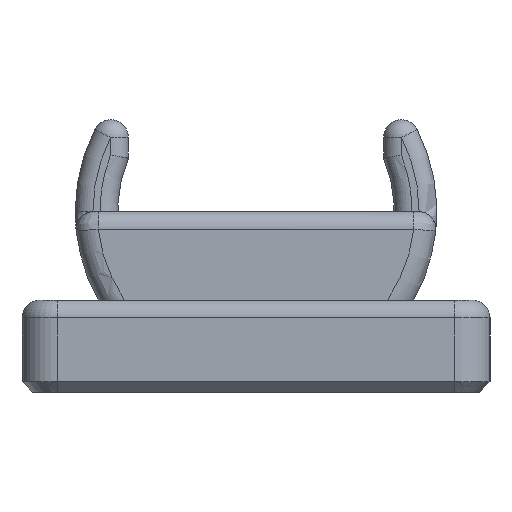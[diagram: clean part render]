
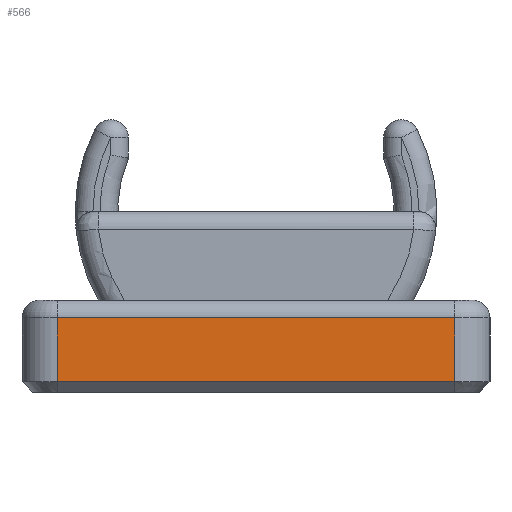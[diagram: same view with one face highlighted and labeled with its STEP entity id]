
A CAD part, left-side view. The second image highlights one B-rep face of the part: STEP entity #566.
In plain terms, the highlighted planar face has unit normal (-1, 0, 0).
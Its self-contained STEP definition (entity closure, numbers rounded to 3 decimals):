
#44 = CYLINDRICAL_SURFACE('',#45,2.);
#45 = AXIS2_PLACEMENT_3D('',#46,#47,#48);
#46 = CARTESIAN_POINT('',(-7.67,-11.2,0.));
#47 = DIRECTION('',(0.,0.,-1.));
#48 = DIRECTION('',(-1.,0.,0.));
#143 = VERTEX_POINT('',#144);
#144 = CARTESIAN_POINT('',(-9.67,-11.2,4.2));
#171 = EDGE_CURVE('',#172,#143,#174,.T.);
#172 = VERTEX_POINT('',#173);
#173 = CARTESIAN_POINT('',(-9.67,-11.2,0.6));
#174 = SURFACE_CURVE('',#175,(#179,#186),.PCURVE_S1.);
#175 = LINE('',#176,#177);
#176 = CARTESIAN_POINT('',(-9.67,-11.2,0.));
#177 = VECTOR('',#178,1.);
#178 = DIRECTION('',(0.,0.,1.));
#179 = PCURVE('',#44,#180);
#180 = DEFINITIONAL_REPRESENTATION('',(#181),#185);
#181 = LINE('',#182,#183);
#182 = CARTESIAN_POINT('',(6.283,0.));
#183 = VECTOR('',#184,1.);
#184 = DIRECTION('',(0.,-1.));
#185 = ( GEOMETRIC_REPRESENTATION_CONTEXT(2) 
PARAMETRIC_REPRESENTATION_CONTEXT() REPRESENTATION_CONTEXT('2D SPACE',''
  ) );
#186 = PCURVE('',#187,#192);
#187 = PLANE('',#188);
#188 = AXIS2_PLACEMENT_3D('',#189,#190,#191);
#189 = CARTESIAN_POINT('',(-9.67,11.2,0.));
#190 = DIRECTION('',(1.,0.,-0.));
#191 = DIRECTION('',(0.,-1.,0.));
#192 = DEFINITIONAL_REPRESENTATION('',(#193),#197);
#193 = LINE('',#194,#195);
#194 = CARTESIAN_POINT('',(22.4,0.));
#195 = VECTOR('',#196,1.);
#196 = DIRECTION('',(0.,-1.));
#197 = ( GEOMETRIC_REPRESENTATION_CONTEXT(2) 
PARAMETRIC_REPRESENTATION_CONTEXT() REPRESENTATION_CONTEXT('2D SPACE',''
  ) );
#478 = PLANE('',#479);
#479 = AXIS2_PLACEMENT_3D('',#480,#481,#482);
#480 = CARTESIAN_POINT('',(-9.37,11.2,0.3));
#481 = DIRECTION('',(-0.707,0.,-0.707));
#482 = DIRECTION('',(-0.,1.,0.));
#532 = CYLINDRICAL_SURFACE('',#533,1.);
#533 = AXIS2_PLACEMENT_3D('',#534,#535,#536);
#534 = CARTESIAN_POINT('',(-8.67,11.2,4.2));
#535 = DIRECTION('',(0.,-1.,0.));
#536 = DIRECTION('',(-1.,-0.,0.));
#566 = ADVANCED_FACE('',(#567),#187,.F.);
#567 = FACE_BOUND('',#568,.F.);
#568 = EDGE_LOOP('',(#569,#599,#620,#621));
#569 = ORIENTED_EDGE('',*,*,#570,.T.);
#570 = EDGE_CURVE('',#571,#573,#575,.T.);
#571 = VERTEX_POINT('',#572);
#572 = CARTESIAN_POINT('',(-9.67,11.2,0.6));
#573 = VERTEX_POINT('',#574);
#574 = CARTESIAN_POINT('',(-9.67,11.2,4.2));
#575 = SURFACE_CURVE('',#576,(#580,#587),.PCURVE_S1.);
#576 = LINE('',#577,#578);
#577 = CARTESIAN_POINT('',(-9.67,11.2,0.));
#578 = VECTOR('',#579,1.);
#579 = DIRECTION('',(0.,0.,1.));
#580 = PCURVE('',#187,#581);
#581 = DEFINITIONAL_REPRESENTATION('',(#582),#586);
#582 = LINE('',#583,#584);
#583 = CARTESIAN_POINT('',(0.,0.));
#584 = VECTOR('',#585,1.);
#585 = DIRECTION('',(0.,-1.));
#586 = ( GEOMETRIC_REPRESENTATION_CONTEXT(2) 
PARAMETRIC_REPRESENTATION_CONTEXT() REPRESENTATION_CONTEXT('2D SPACE',''
  ) );
#587 = PCURVE('',#588,#593);
#588 = CYLINDRICAL_SURFACE('',#589,2.);
#589 = AXIS2_PLACEMENT_3D('',#590,#591,#592);
#590 = CARTESIAN_POINT('',(-7.67,11.2,0.));
#591 = DIRECTION('',(0.,0.,-1.));
#592 = DIRECTION('',(-1.,0.,0.));
#593 = DEFINITIONAL_REPRESENTATION('',(#594),#598);
#594 = LINE('',#595,#596);
#595 = CARTESIAN_POINT('',(0.,0.));
#596 = VECTOR('',#597,1.);
#597 = DIRECTION('',(0.,-1.));
#598 = ( GEOMETRIC_REPRESENTATION_CONTEXT(2) 
PARAMETRIC_REPRESENTATION_CONTEXT() REPRESENTATION_CONTEXT('2D SPACE',''
  ) );
#599 = ORIENTED_EDGE('',*,*,#600,.T.);
#600 = EDGE_CURVE('',#573,#143,#601,.T.);
#601 = SURFACE_CURVE('',#602,(#606,#613),.PCURVE_S1.);
#602 = LINE('',#603,#604);
#603 = CARTESIAN_POINT('',(-9.67,11.2,4.2));
#604 = VECTOR('',#605,1.);
#605 = DIRECTION('',(0.,-1.,0.));
#606 = PCURVE('',#187,#607);
#607 = DEFINITIONAL_REPRESENTATION('',(#608),#612);
#608 = LINE('',#609,#610);
#609 = CARTESIAN_POINT('',(0.,-4.2));
#610 = VECTOR('',#611,1.);
#611 = DIRECTION('',(1.,0.));
#612 = ( GEOMETRIC_REPRESENTATION_CONTEXT(2) 
PARAMETRIC_REPRESENTATION_CONTEXT() REPRESENTATION_CONTEXT('2D SPACE',''
  ) );
#613 = PCURVE('',#532,#614);
#614 = DEFINITIONAL_REPRESENTATION('',(#615),#619);
#615 = LINE('',#616,#617);
#616 = CARTESIAN_POINT('',(-0.,0.));
#617 = VECTOR('',#618,1.);
#618 = DIRECTION('',(-0.,1.));
#619 = ( GEOMETRIC_REPRESENTATION_CONTEXT(2) 
PARAMETRIC_REPRESENTATION_CONTEXT() REPRESENTATION_CONTEXT('2D SPACE',''
  ) );
#620 = ORIENTED_EDGE('',*,*,#171,.F.);
#621 = ORIENTED_EDGE('',*,*,#622,.F.);
#622 = EDGE_CURVE('',#571,#172,#623,.T.);
#623 = SURFACE_CURVE('',#624,(#628,#635),.PCURVE_S1.);
#624 = LINE('',#625,#626);
#625 = CARTESIAN_POINT('',(-9.67,11.2,0.6));
#626 = VECTOR('',#627,1.);
#627 = DIRECTION('',(0.,-1.,0.));
#628 = PCURVE('',#187,#629);
#629 = DEFINITIONAL_REPRESENTATION('',(#630),#634);
#630 = LINE('',#631,#632);
#631 = CARTESIAN_POINT('',(0.,-0.6));
#632 = VECTOR('',#633,1.);
#633 = DIRECTION('',(1.,0.));
#634 = ( GEOMETRIC_REPRESENTATION_CONTEXT(2) 
PARAMETRIC_REPRESENTATION_CONTEXT() REPRESENTATION_CONTEXT('2D SPACE',''
  ) );
#635 = PCURVE('',#478,#636);
#636 = DEFINITIONAL_REPRESENTATION('',(#637),#641);
#637 = LINE('',#638,#639);
#638 = CARTESIAN_POINT('',(-0.,-0.424));
#639 = VECTOR('',#640,1.);
#640 = DIRECTION('',(-1.,0.));
#641 = ( GEOMETRIC_REPRESENTATION_CONTEXT(2) 
PARAMETRIC_REPRESENTATION_CONTEXT() REPRESENTATION_CONTEXT('2D SPACE',''
  ) );
